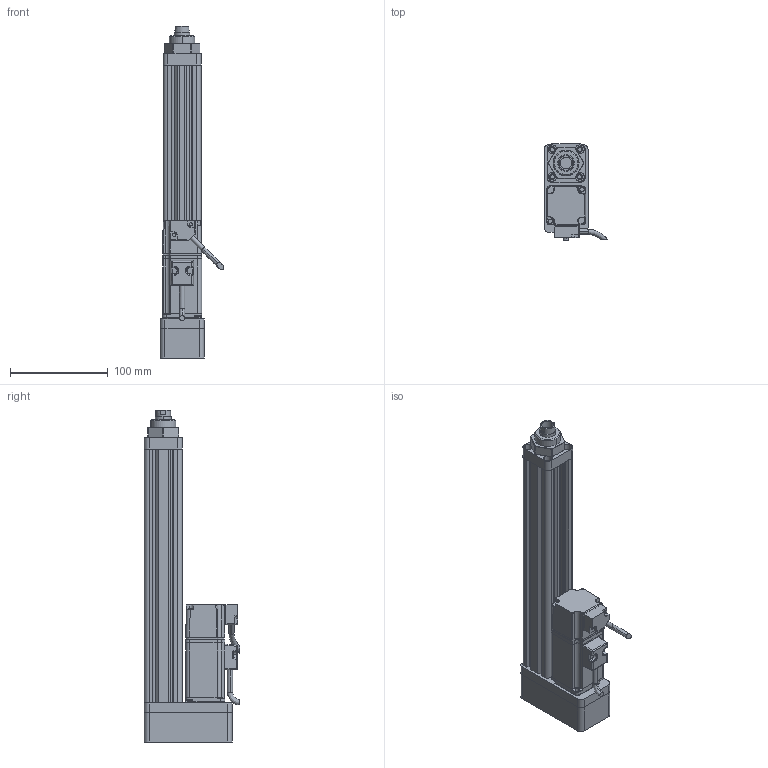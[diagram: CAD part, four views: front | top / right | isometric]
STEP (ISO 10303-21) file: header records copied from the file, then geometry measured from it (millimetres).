
FILE_DESCRIPTION (( 'STEP AP214' ), '1' );
FILE_NAME ('039-S200-D02-B-M4-C2-2.STEP', '2021-02-25T08:59:31', ( '' ), ( '' ), 'SwSTEP 2.0', 'SolidWorks 2018', '' );
FILE_SCHEMA (( 'AUTOMOTIVE_DESIGN' ));
Length unit declared in the file: millimetre
Products named in the file (8): 039-S200-D02-B-M4-C2-2; CMC039-DT; CMC039-HXT; ECMA-CX0401ES-40框號系列機種-100W低慣量系列; CMC039-M261; CMC039-GT; CMC039-FL; CMC039-LJB
Assembly tree (7 placements, depth 2):
  039-S200-D02-B-M4-C2-2
    CMC039-GT
    CMC039-LJB
    CMC039-FL
    CMC039-DT
    ECMA-CX0401ES-40框號系列機種-100W低慣量系列
    CMC039-M261
    CMC039-HXT
Bounding box: 65.33 x 97.89 x 340 mm (x, y, z)
Volume: 493366.3 mm3; surface area: 164177.9 mm2
Topology: 7 solids, 15 shells, 697 faces, 1812 edges, 1126 vertices
Faces by surface type: cylinder 287, plane 269, bspline 84, cone 57
Entity records: 27531 total; most frequent: CARTESIAN_POINT 11127, ORIENTED_EDGE 3558, DIRECTION 2940, EDGE_CURVE 1779, VERTEX_POINT 1126, AXIS2_PLACEMENT_3D 1026, VECTOR 888, LINE 888
